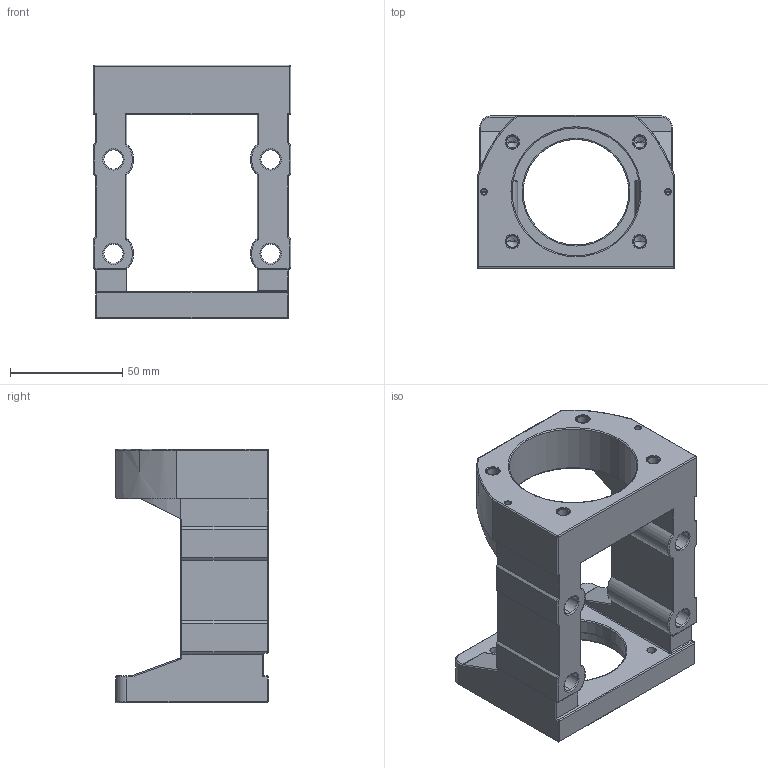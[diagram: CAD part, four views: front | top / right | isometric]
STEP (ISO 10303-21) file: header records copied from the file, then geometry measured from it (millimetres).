
FILE_DESCRIPTION (( 'STEP AP203' ), '1' );
FILE_NAME ('MBA20-D.STEP', '2019-01-02T03:41:36', ( '' ), ( '' ), 'SwSTEP 2.0', 'SolidWorks 2018', '' );
FILE_SCHEMA (( 'CONFIG_CONTROL_DESIGN' ));
Length unit declared in the file: millimetre
Products named in the file (1): MBA20-D
Bounding box: 88 x 68 x 113 mm (x, y, z)
Volume: 200042.9 mm3; surface area: 50612.2 mm2
Topology: 1 solids, 1 shells, 282 faces, 677 edges, 387 vertices
Faces by surface type: cylinder 106, plane 66, torus 53, cone 52, bspline 3, sphere 2
Entity records: 8282 total; most frequent: CARTESIAN_POINT 1709, DIRECTION 1437, ORIENTED_EDGE 1318, EDGE_CURVE 659, AXIS2_PLACEMENT_3D 573, VERTEX_POINT 387, EDGE_LOOP 312, CIRCLE 293
